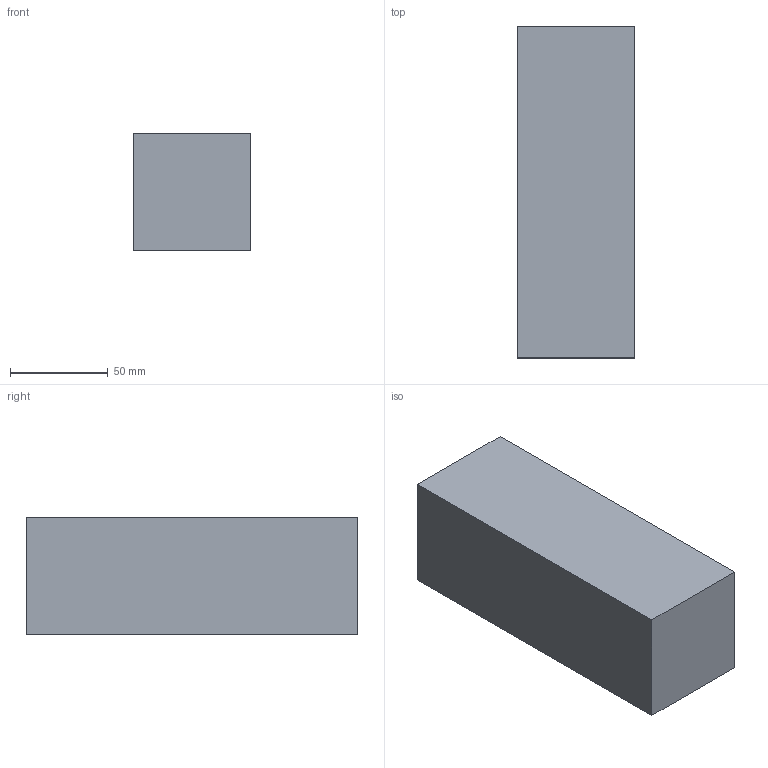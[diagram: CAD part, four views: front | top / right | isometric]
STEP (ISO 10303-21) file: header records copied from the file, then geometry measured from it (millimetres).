
FILE_DESCRIPTION (( 'STEP AP214' ), '1' );
FILE_NAME ('2.13-1053_WVPPM33.STEP', '2021-12-20T09:36:24', ( '' ), ( '' ), 'SwSTEP 2.0', 'SolidWorks 2020', '' );
FILE_SCHEMA (( 'AUTOMOTIVE_DESIGN' ));
Length unit declared in the file: millimetre
Products named in the file (1): 2.13-1053_WVPPM33
Bounding box: 60 x 170 x 60 mm (x, y, z)
Volume: 509093.2 mm3; surface area: 60692.3 mm2
Topology: 1 solids, 1 shells, 47 faces, 96 edges, 51 vertices
Faces by surface type: cone 16, torus 12, cylinder 12, plane 7
Entity records: 1368 total; most frequent: DIRECTION 244, CARTESIAN_POINT 193, ORIENTED_EDGE 188, AXIS2_PLACEMENT_3D 102, EDGE_CURVE 94, CIRCLE 54, VERTEX_POINT 51, EDGE_LOOP 49
